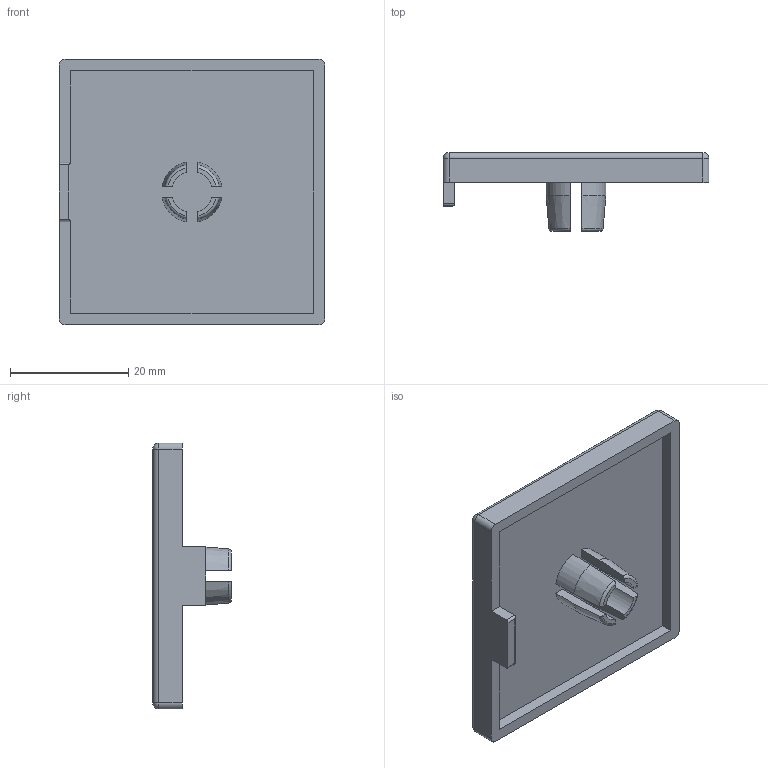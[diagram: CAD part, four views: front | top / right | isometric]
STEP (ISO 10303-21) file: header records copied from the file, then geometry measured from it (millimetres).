
FILE_DESCRIPTION (( 'STEP AP214' ), '1' );
FILE_NAME ('SNSD.30.50.47. Çàãëóøêà òîðöåâàÿ 45x45(C24).STEP', '2014-11-20T10:11:30', ( 'XTreme.ws' ), ( 'XTreme.ws' ), 'SwSTEP 2.0', 'SolidWorks 2014', '' );
FILE_SCHEMA (( 'AUTOMOTIVE_DESIGN' ));
Length unit declared in the file: millimetre
Products named in the file (1): SNSD.30.50.47. Çàãëóøêà òîðöåâàÿ 45x45(C24)
Bounding box: 45 x 13.3 x 45 mm (x, y, z)
Volume: 7089.1 mm3; surface area: 5780.6 mm2
Topology: 1 solids, 1 shells, 57 faces, 143 edges, 88 vertices
Faces by surface type: plane 26, cylinder 19, cone 4, sphere 4, torus 4
Entity records: 1753 total; most frequent: CARTESIAN_POINT 379, DIRECTION 279, ORIENTED_EDGE 278, EDGE_CURVE 139, AXIS2_PLACEMENT_3D 100, VERTEX_POINT 88, LINE 79, VECTOR 79
